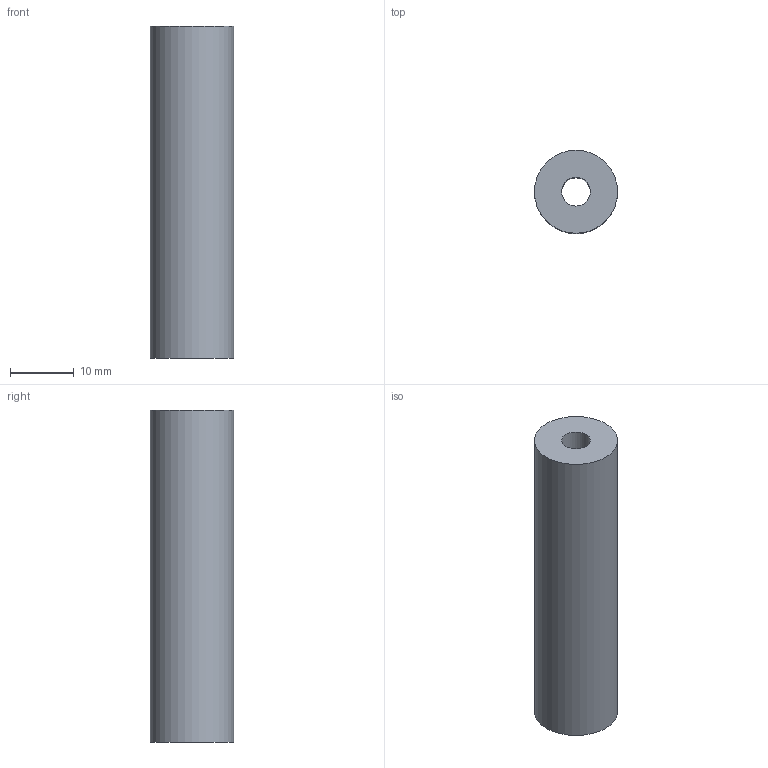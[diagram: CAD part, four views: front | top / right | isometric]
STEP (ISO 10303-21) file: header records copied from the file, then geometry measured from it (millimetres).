
FILE_DESCRIPTION(('Open CASCADE Model'),'2;1');
FILE_NAME('Open CASCADE Shape Model','2026-10-26T17:58:52',('Author'),( 'Open CASCADE'),'Open CASCADE STEP processor 7.9','Open CASCADE 7.9' ,'Unknown');
FILE_SCHEMA(('AUTOMOTIVE_DESIGN { 1 0 10303 214 1 1 1 1 }'));
Length unit declared in the file: millimetre
Products named in the file (1): Open CASCADE STEP translator 7.9 20
Bounding box: 13 x 13 x 51.94 mm (x, y, z)
Volume: 6067.8 mm3; surface area: 3089.1 mm2
Topology: 1 solids, 1 shells, 4 faces, 6 edges, 4 vertices
Faces by surface type: cylinder 2, plane 2
Full cylindrical faces by diameter (mm): 4.5 x1, 13 x1
Entity records: 186 total; most frequent: DIRECTION 32, CARTESIAN_POINT 27, ORIENTED_EDGE 12, PCURVE 12, DEFINITIONAL_REPRESENTATION 12, LINE 10, VECTOR 10, AXIS2_PLACEMENT_3D 9
